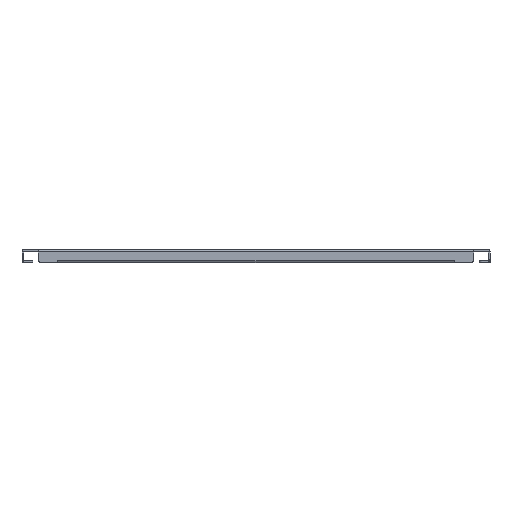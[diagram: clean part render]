
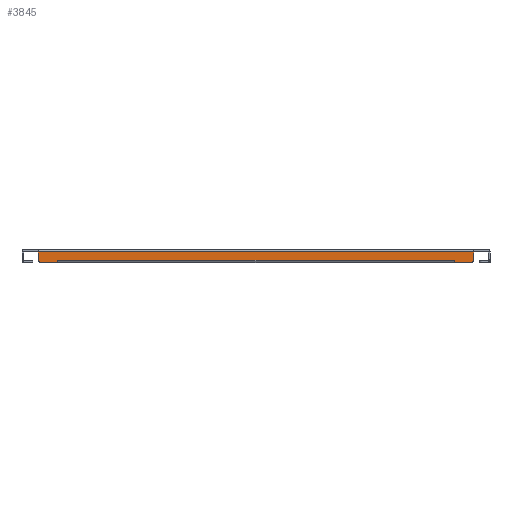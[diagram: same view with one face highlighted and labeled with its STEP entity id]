
A CAD part, front view. The second image highlights one B-rep face of the part: STEP entity #3845.
In plain terms, the highlighted planar face has unit normal (0, -1, 0).
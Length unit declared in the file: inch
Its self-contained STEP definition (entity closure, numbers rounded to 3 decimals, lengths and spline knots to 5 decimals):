
#117=PLANE('',#4194);
#269=FACE_OUTER_BOUND('',#509,.T.);
#509=EDGE_LOOP('',(#3133,#3134,#3135,#3136,#3137,#3138,#3139,#3140,#3141,
#3142,#3143,#3144,#3145,#3146));
#800=LINE('',#6060,#1198);
#820=LINE('',#6128,#1218);
#838=LINE('',#6189,#1236);
#841=LINE('',#6194,#1239);
#842=LINE('',#6198,#1240);
#843=LINE('',#6200,#1241);
#844=LINE('',#6202,#1242);
#845=LINE('',#6204,#1243);
#846=LINE('',#6206,#1244);
#847=LINE('',#6208,#1245);
#848=LINE('',#6210,#1246);
#849=LINE('',#6211,#1247);
#1198=VECTOR('',#4909,0.3937);
#1218=VECTOR('',#4963,0.3937);
#1236=VECTOR('',#5013,0.3937);
#1239=VECTOR('',#5018,0.3937);
#1240=VECTOR('',#5021,0.3937);
#1241=VECTOR('',#5022,0.3937);
#1242=VECTOR('',#5023,0.3937);
#1243=VECTOR('',#5024,0.3937);
#1244=VECTOR('',#5025,0.3937);
#1245=VECTOR('',#5026,0.3937);
#1246=VECTOR('',#5027,0.3937);
#1247=VECTOR('',#5028,0.3937);
#1521=CIRCLE('',#4192,0.125);
#1522=CIRCLE('',#4195,0.125);
#1776=VERTEX_POINT('',#6057);
#1777=VERTEX_POINT('',#6059);
#1807=VERTEX_POINT('',#6125);
#1808=VERTEX_POINT('',#6127);
#1834=VERTEX_POINT('',#6184);
#1835=VERTEX_POINT('',#6188);
#1837=VERTEX_POINT('',#6195);
#1838=VERTEX_POINT('',#6197);
#1839=VERTEX_POINT('',#6199);
#1840=VERTEX_POINT('',#6201);
#1841=VERTEX_POINT('',#6203);
#1842=VERTEX_POINT('',#6205);
#1843=VERTEX_POINT('',#6207);
#1844=VERTEX_POINT('',#6209);
#2242=EDGE_CURVE('',#1777,#1776,#800,.T.);
#2276=EDGE_CURVE('',#1808,#1807,#820,.T.);
#2305=EDGE_CURVE('',#1808,#1834,#1521,.T.);
#2307=EDGE_CURVE('',#1835,#1834,#838,.T.);
#2310=EDGE_CURVE('',#1777,#1807,#841,.T.);
#2311=EDGE_CURVE('',#1837,#1776,#1522,.T.);
#2312=EDGE_CURVE('',#1837,#1838,#842,.T.);
#2313=EDGE_CURVE('',#1838,#1839,#843,.T.);
#2314=EDGE_CURVE('',#1839,#1840,#844,.T.);
#2315=EDGE_CURVE('',#1840,#1841,#845,.T.);
#2316=EDGE_CURVE('',#1841,#1842,#846,.T.);
#2317=EDGE_CURVE('',#1842,#1843,#847,.T.);
#2318=EDGE_CURVE('',#1843,#1844,#848,.T.);
#2319=EDGE_CURVE('',#1844,#1835,#849,.T.);
#3133=ORIENTED_EDGE('',*,*,#2305,.F.);
#3134=ORIENTED_EDGE('',*,*,#2276,.T.);
#3135=ORIENTED_EDGE('',*,*,#2310,.F.);
#3136=ORIENTED_EDGE('',*,*,#2242,.T.);
#3137=ORIENTED_EDGE('',*,*,#2311,.F.);
#3138=ORIENTED_EDGE('',*,*,#2312,.T.);
#3139=ORIENTED_EDGE('',*,*,#2313,.T.);
#3140=ORIENTED_EDGE('',*,*,#2314,.T.);
#3141=ORIENTED_EDGE('',*,*,#2315,.T.);
#3142=ORIENTED_EDGE('',*,*,#2316,.T.);
#3143=ORIENTED_EDGE('',*,*,#2317,.T.);
#3144=ORIENTED_EDGE('',*,*,#2318,.T.);
#3145=ORIENTED_EDGE('',*,*,#2319,.T.);
#3146=ORIENTED_EDGE('',*,*,#2307,.T.);
#3845=ADVANCED_FACE('',(#269),#117,.F.);
#4192=AXIS2_PLACEMENT_3D('',#6185,#5008,#5009);
#4194=AXIS2_PLACEMENT_3D('',#6193,#5016,#5017);
#4195=AXIS2_PLACEMENT_3D('',#6196,#5019,#5020);
#4909=DIRECTION('',(0.,0.,-1.));
#4963=DIRECTION('',(0.,0.,1.));
#5008=DIRECTION('center_axis',(0.,1.,0.));
#5009=DIRECTION('ref_axis',(0.707,0.,-0.707));
#5013=DIRECTION('',(1.,0.,0.));
#5016=DIRECTION('center_axis',(0.,1.,0.));
#5017=DIRECTION('ref_axis',(0.,0.,1.));
#5018=DIRECTION('',(1.,0.,0.));
#5019=DIRECTION('center_axis',(0.,1.,0.));
#5020=DIRECTION('ref_axis',(-0.707,0.,-0.707));
#5021=DIRECTION('',(1.,0.,0.));
#5022=DIRECTION('',(0.,0.,1.));
#5023=DIRECTION('',(1.,0.,0.));
#5024=DIRECTION('',(0.,0.,-1.));
#5025=DIRECTION('',(1.,0.,0.));
#5026=DIRECTION('',(0.,0.,1.));
#5027=DIRECTION('',(1.,0.,0.));
#5028=DIRECTION('',(0.,0.,-1.));
#6057=CARTESIAN_POINT('',(-8.4375,-26.5,-0.319));
#6059=CARTESIAN_POINT('',(-8.4375,-26.5,-0.031));
#6060=CARTESIAN_POINT('',(-8.4375,-26.5,0.068));
#6125=CARTESIAN_POINT('',(8.4375,-26.5,-0.031));
#6127=CARTESIAN_POINT('',(8.4375,-26.5,-0.319));
#6128=CARTESIAN_POINT('',(8.4375,-26.5,-0.444));
#6184=CARTESIAN_POINT('',(8.3125,-26.5,-0.444));
#6185=CARTESIAN_POINT('Origin',(8.3125,-26.5,-0.319));
#6188=CARTESIAN_POINT('',(7.6877,-26.5,-0.444));
#6189=CARTESIAN_POINT('',(-8.4375,-26.5,-0.444));
#6193=CARTESIAN_POINT('Origin',(0.,-26.5,-0.188));
#6194=CARTESIAN_POINT('',(8.4375,-26.5,-0.031));
#6195=CARTESIAN_POINT('',(-8.3125,-26.5,-0.444));
#6196=CARTESIAN_POINT('Origin',(-8.3125,-26.5,-0.319));
#6197=CARTESIAN_POINT('',(-7.6877,-26.5,-0.444));
#6198=CARTESIAN_POINT('',(-8.4375,-26.5,-0.444));
#6199=CARTESIAN_POINT('',(-7.6877,-26.5,-0.3448));
#6200=CARTESIAN_POINT('',(-7.6877,-26.5,-0.316));
#6201=CARTESIAN_POINT('',(-7.6875,-26.5,-0.3448));
#6202=CARTESIAN_POINT('',(-3.84385,-26.5,-0.3448));
#6203=CARTESIAN_POINT('',(-7.6875,-26.5,-0.345));
#6204=CARTESIAN_POINT('',(-7.6875,-26.5,-0.2664));
#6205=CARTESIAN_POINT('',(7.6875,-26.5,-0.345));
#6206=CARTESIAN_POINT('',(3.84375,-26.5,-0.345));
#6207=CARTESIAN_POINT('',(7.6875,-26.5,-0.3448));
#6208=CARTESIAN_POINT('',(7.6875,-26.5,-0.316));
#6209=CARTESIAN_POINT('',(7.6877,-26.5,-0.3448));
#6210=CARTESIAN_POINT('',(3.84375,-26.5,-0.3448));
#6211=CARTESIAN_POINT('',(7.6877,-26.5,-0.2664));
